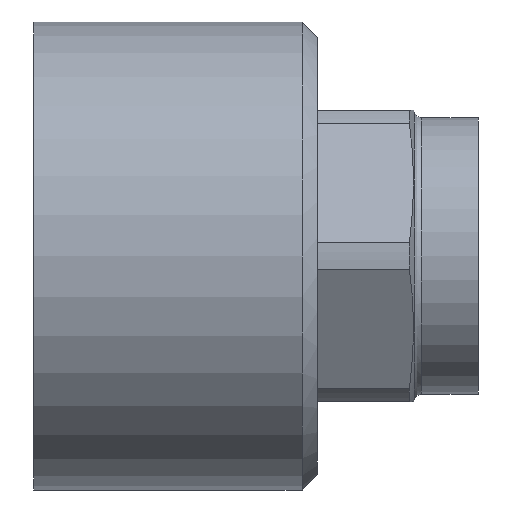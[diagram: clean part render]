
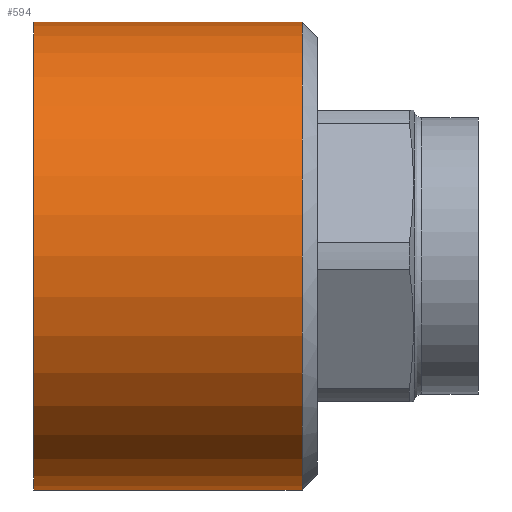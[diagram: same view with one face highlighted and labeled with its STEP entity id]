
A CAD part, front view. The second image highlights one B-rep face of the part: STEP entity #594.
In plain terms, the highlighted cylindrical face has radius 15.25 mm (diameter 30.5 mm), a full revolution.
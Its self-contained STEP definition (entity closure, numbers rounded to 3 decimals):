
#121=CARTESIAN_POINT('',(0.,15.25,0.0));
#122=VERTEX_POINT('',#121);
#123=CARTESIAN_POINT('',(0.,0.,0.0));
#124=DIRECTION('',(1.0,0.0,0.0));
#125=DIRECTION('',(0.0,1.0,0.0));
#126=AXIS2_PLACEMENT_3D('',#123,#124,#125);
#127=CIRCLE('',#126,15.25);
#128=EDGE_CURVE('',#122,#122,#127,.T.);
#575=CARTESIAN_POINT('',(8.75,0.,0.0));
#576=DIRECTION('',(1.0,0.,0.0));
#577=DIRECTION('',(0.0,1.0,0.0));
#578=AXIS2_PLACEMENT_3D('',#575,#576,#577);
#579=CYLINDRICAL_SURFACE('',#578,15.25);
#580=CARTESIAN_POINT('',(17.5,15.25,0.0));
#581=VERTEX_POINT('',#580);
#582=CARTESIAN_POINT('',(17.5,0.,0.0));
#583=DIRECTION('',(1.0,0.0,0.0));
#584=DIRECTION('',(0.0,1.0,0.0));
#585=AXIS2_PLACEMENT_3D('',#582,#583,#584);
#586=CIRCLE('',#585,15.25);
#587=EDGE_CURVE('',#581,#581,#586,.T.);
#588=ORIENTED_EDGE('',*,*,#587,.F.);
#589=EDGE_LOOP('',(#588));
#590=FACE_OUTER_BOUND('',#589,.T.);
#591=ORIENTED_EDGE('',*,*,#128,.T.);
#592=EDGE_LOOP('',(#591));
#593=FACE_BOUND('',#592,.T.);
#594=ADVANCED_FACE('',(#590,#593),#579,.T.);
